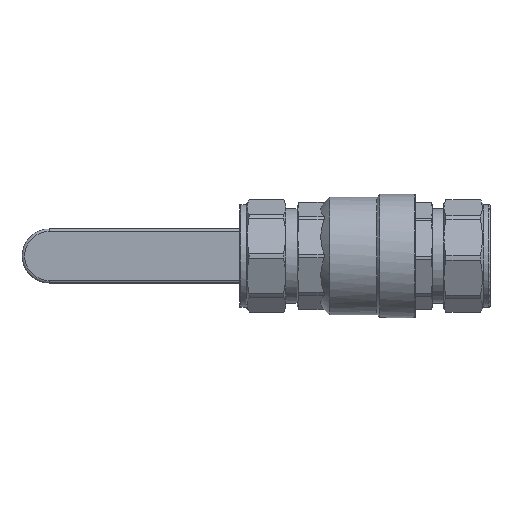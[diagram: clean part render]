
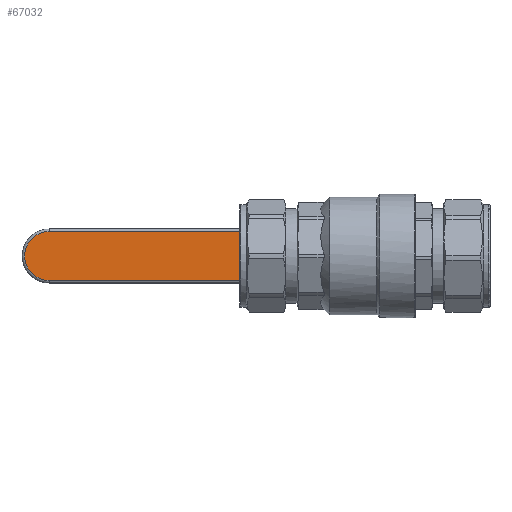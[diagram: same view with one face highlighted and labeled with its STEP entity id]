
A CAD part, front view. The second image highlights one B-rep face of the part: STEP entity #67032.
In plain terms, the highlighted planar face has unit normal (0, -1, 0).
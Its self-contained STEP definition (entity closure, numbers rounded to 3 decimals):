
#66964=CARTESIAN_POINT('',(-39.283,57.7,-9.0));
#66965=VERTEX_POINT('',#66964);
#66966=CARTESIAN_POINT('',(-39.283,57.7,9.0));
#66967=VERTEX_POINT('',#66966);
#66968=CARTESIAN_POINT('',(-39.283,57.7,-9.0));
#66969=DIRECTION('',(0.0,0.0,1.0));
#66970=VECTOR('',#66969,18.0);
#66971=LINE('',#66968,#66970);
#66972=EDGE_CURVE('',#66965,#66967,#66971,.T.);
#67001=CARTESIAN_POINT('',(-35.643,57.7,-23.5));
#67002=DIRECTION('',(0.0,1.0,0.0));
#67003=DIRECTION('',(0.0,0.0,-1.0));
#67004=AXIS2_PLACEMENT_3D('',#67001,#67002,#67003);
#67005=PLANE('',#67004);
#67006=ORIENTED_EDGE('',*,*,#66972,.T.);
#67007=CARTESIAN_POINT('',(-115.0,57.7,9.0));
#67008=VERTEX_POINT('',#67007);
#67009=CARTESIAN_POINT('',(-39.283,57.7,9.0));
#67010=DIRECTION('',(-1.0,0.0,0.0));
#67011=VECTOR('',#67010,75.717);
#67012=LINE('',#67009,#67011);
#67013=EDGE_CURVE('',#66967,#67008,#67012,.T.);
#67014=ORIENTED_EDGE('',*,*,#67013,.T.);
#67015=CARTESIAN_POINT('',(-115.0,57.7,-9.0));
#67016=VERTEX_POINT('',#67015);
#67017=CARTESIAN_POINT('',(-115.0,57.7,0.));
#67018=DIRECTION('',(0.0,-1.0,0.0));
#67019=DIRECTION('',(0.0,0.0,1.0));
#67020=AXIS2_PLACEMENT_3D('',#67017,#67018,#67019);
#67021=CIRCLE('',#67020,9.0);
#67022=EDGE_CURVE('',#67008,#67016,#67021,.T.);
#67023=ORIENTED_EDGE('',*,*,#67022,.T.);
#67024=CARTESIAN_POINT('',(-115.0,57.7,-9.0));
#67025=DIRECTION('',(1.0,0.0,0.0));
#67026=VECTOR('',#67025,75.717);
#67027=LINE('',#67024,#67026);
#67028=EDGE_CURVE('',#67016,#66965,#67027,.T.);
#67029=ORIENTED_EDGE('',*,*,#67028,.T.);
#67030=EDGE_LOOP('',(#67006,#67014,#67023,#67029));
#67031=FACE_OUTER_BOUND('',#67030,.T.);
#67032=ADVANCED_FACE('',(#67031),#67005,.F.);
